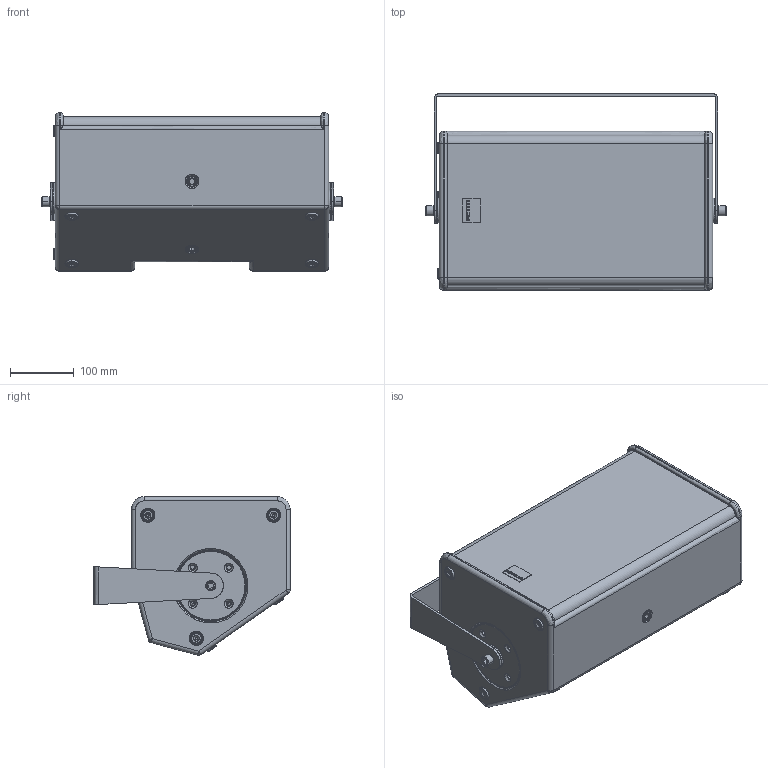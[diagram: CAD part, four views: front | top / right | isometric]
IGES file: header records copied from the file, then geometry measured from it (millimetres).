
Start section: SolidWorks IGES file using analytic representation for surfaces
Global section: file name: C:\Dokumente und Einstellungen\PC_Fabian\Desktop\TS-Serie\Seeburg_TSM8_Bracket_hor.IGS; native system: SolidWorks 2009; preprocessor: SolidWorks 2009; author: PC_Fabian; date: 121017.141149; units: millimetre
Bounding box: 472.21 x 309 x 249.43 mm (x, y, z)
Surface area: 1123711.2 mm2 (no closed solid volume)
Topology: 0 solids, 0 shells, 844 faces, 12520 edges, 12516 vertices
Faces by surface type: revolution 483, bspline 361
